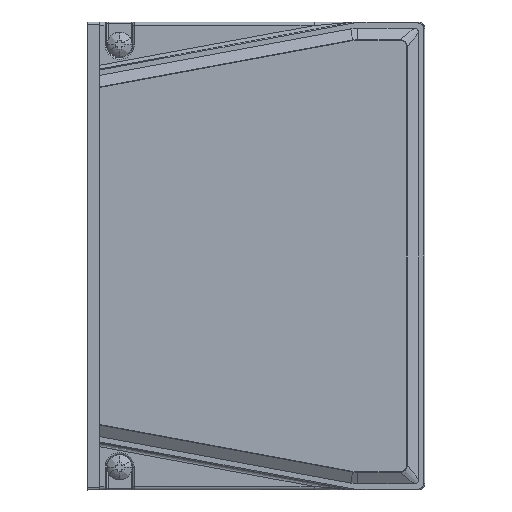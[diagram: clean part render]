
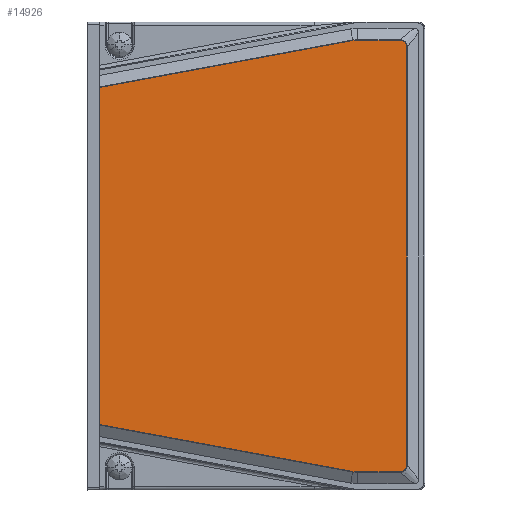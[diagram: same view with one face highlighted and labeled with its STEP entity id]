
A CAD part, left-side view. The second image highlights one B-rep face of the part: STEP entity #14926.
In plain terms, the highlighted planar face has unit normal (-1, 0, 0).
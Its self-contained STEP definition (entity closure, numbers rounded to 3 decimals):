
#14926=ADVANCED_FACE('',(#18165),#97324,.T.);
#18165=FACE_OUTER_BOUND('',#21525,.T.);
#21525=EDGE_LOOP('',(#39402,#39403,#39404,#39405,#39406,#39407,#39408,#39409,
#39410,#39411,#39412,#39413,#39414,#39415));
#39402=ORIENTED_EDGE('',*,*,#57978,.F.);
#39403=ORIENTED_EDGE('',*,*,#57979,.F.);
#39404=ORIENTED_EDGE('',*,*,#57980,.F.);
#39405=ORIENTED_EDGE('',*,*,#57986,.F.);
#39406=ORIENTED_EDGE('',*,*,#57989,.F.);
#39407=ORIENTED_EDGE('',*,*,#57981,.F.);
#39408=ORIENTED_EDGE('',*,*,#57982,.F.);
#39409=ORIENTED_EDGE('',*,*,#57987,.F.);
#39410=ORIENTED_EDGE('',*,*,#57990,.F.);
#39411=ORIENTED_EDGE('',*,*,#57983,.F.);
#39412=ORIENTED_EDGE('',*,*,#57984,.F.);
#39413=ORIENTED_EDGE('',*,*,#57985,.F.);
#39414=ORIENTED_EDGE('',*,*,#57988,.F.);
#39415=ORIENTED_EDGE('',*,*,#57977,.T.);
#57977=EDGE_CURVE('',#93692,#93691,#75265,.T.);
#57978=EDGE_CURVE('',#93693,#93691,#75266,.T.);
#57979=EDGE_CURVE('',#93694,#93693,#75267,.T.);
#57980=EDGE_CURVE('',#93695,#93694,#75268,.T.);
#57981=EDGE_CURVE('',#93696,#93701,#75269,.T.);
#57982=EDGE_CURVE('',#93697,#93696,#75270,.T.);
#57983=EDGE_CURVE('',#93698,#93703,#75271,.T.);
#57984=EDGE_CURVE('',#93699,#93698,#75272,.T.);
#57985=EDGE_CURVE('',#93700,#93699,#75273,.T.);
#57986=EDGE_CURVE('',#93702,#93695,#75274,.T.);
#57987=EDGE_CURVE('',#93704,#93697,#75275,.T.);
#57988=EDGE_CURVE('',#93692,#93700,#75276,.T.);
#57989=EDGE_CURVE('',#93701,#93702,#75277,.T.);
#57990=EDGE_CURVE('',#93703,#93704,#75278,.T.);
#75265=B_SPLINE_CURVE_WITH_KNOTS('',1,(#172296,#172297),.UNSPECIFIED.,.F.,
 .F.,(2,2),(-75.602,0.),.UNSPECIFIED.);
#75266=B_SPLINE_CURVE_WITH_KNOTS('',1,(#172298,#172299),.UNSPECIFIED.,.F.,
 .F.,(2,2),(0.,57.796),.UNSPECIFIED.);
#75267=B_SPLINE_CURVE_WITH_KNOTS('',5,(#172300,#172301,#172302,#172303,
#172304,#172305),.UNSPECIFIED.,.F.,.F.,(6,6),(-1.564,0.),
 .UNSPECIFIED.);
#75268=B_SPLINE_CURVE_WITH_KNOTS('',1,(#172306,#172307),.UNSPECIFIED.,.F.,
 .F.,(2,2),(0.,9.539),.UNSPECIFIED.);
#75269=B_SPLINE_CURVE_WITH_KNOTS('',5,(#172308,#172309,#172310,#172311,
#172312,#172313,#172314,#172315,#172316,#172317,#172318,#172319),
 .UNSPECIFIED.,.F.,.F.,(6,3,3,6),(-3.277,-2.663,-1.908,
-1.863),.UNSPECIFIED.);
#75270=B_SPLINE_CURVE_WITH_KNOTS('',1,(#172320,#172321),.UNSPECIFIED.,.F.,
 .F.,(2,2),(0.,93.935),.UNSPECIFIED.);
#75271=B_SPLINE_CURVE_WITH_KNOTS('',5,(#172322,#172323,#172324,#172325,
#172326,#172327,#172328,#172329,#172330,#172331,#172332,#172333),
 .UNSPECIFIED.,.F.,.F.,(6,3,3,6),(-3.277,-2.663,-1.908,
-1.863),.UNSPECIFIED.);
#75272=B_SPLINE_CURVE_WITH_KNOTS('',1,(#172334,#172335),.UNSPECIFIED.,.F.,
 .F.,(2,2),(0.,9.539),.UNSPECIFIED.);
#75273=B_SPLINE_CURVE_WITH_KNOTS('',5,(#172336,#172337,#172338,#172339,
#172340,#172341),.UNSPECIFIED.,.F.,.F.,(6,6),(-1.564,0.),
 .UNSPECIFIED.);
#75274=B_SPLINE_CURVE_WITH_KNOTS('',5,(#172342,#172343,#172344,#172345,
#172346,#172347,#172348,#172349,#172350),.UNSPECIFIED.,.F.,.F.,(6,3,6),
(-1.502,-0.78,0.),.UNSPECIFIED.);
#75275=B_SPLINE_CURVE_WITH_KNOTS('',5,(#172351,#172352,#172353,#172354,
#172355,#172356,#172357,#172358,#172359),.UNSPECIFIED.,.F.,.F.,(6,3,6),
(-1.502,-0.78,0.),.UNSPECIFIED.);
#75276=B_SPLINE_CURVE_WITH_KNOTS('',1,(#172360,#172361),.UNSPECIFIED.,.F.,
 .F.,(2,2),(-57.796,0.),.UNSPECIFIED.);
#75277=B_SPLINE_CURVE_WITH_KNOTS('',3,(#172362,#172363,#172364,#172365),
 .UNSPECIFIED.,.F.,.F.,(4,4),(3.371,3.66),
 .UNSPECIFIED.);
#75278=B_SPLINE_CURVE_WITH_KNOTS('',3,(#172366,#172367,#172368,#172369),
 .UNSPECIFIED.,.F.,.F.,(4,4),(3.371,3.66),
 .UNSPECIFIED.);
#93691=VERTEX_POINT('',#172282);
#93692=VERTEX_POINT('',#172283);
#93693=VERTEX_POINT('',#172284);
#93694=VERTEX_POINT('',#172285);
#93695=VERTEX_POINT('',#172286);
#93696=VERTEX_POINT('',#172287);
#93697=VERTEX_POINT('',#172288);
#93698=VERTEX_POINT('',#172289);
#93699=VERTEX_POINT('',#172290);
#93700=VERTEX_POINT('',#172291);
#93701=VERTEX_POINT('',#172292);
#93702=VERTEX_POINT('',#172293);
#93703=VERTEX_POINT('',#172294);
#93704=VERTEX_POINT('',#172295);
#97324=PLANE('',#100166);
#100166=AXIS2_PLACEMENT_3D('',#172281,#102991,$);
#102991=DIRECTION('',(-1.,0.,0.));
#172281=CARTESIAN_POINT('',(452.208,-152.175,111.233));
#172282=CARTESIAN_POINT('',(452.208,-76.287,131.614));
#172283=CARTESIAN_POINT('',(452.208,-76.287,207.215));
#172284=CARTESIAN_POINT('',(452.208,-133.115,121.081));
#172285=CARTESIAN_POINT('',(452.208,-134.215,120.98));
#172286=CARTESIAN_POINT('',(452.208,-143.755,120.98));
#172287=CARTESIAN_POINT('',(452.208,-145.222,122.447));
#172288=CARTESIAN_POINT('',(452.208,-145.222,216.382));
#172289=CARTESIAN_POINT('',(452.208,-143.755,217.849));
#172290=CARTESIAN_POINT('',(452.208,-134.215,217.849));
#172291=CARTESIAN_POINT('',(452.208,-133.115,217.748));
#172292=CARTESIAN_POINT('',(452.208,-144.902,121.548));
#172293=CARTESIAN_POINT('',(452.208,-144.706,121.343));
#172294=CARTESIAN_POINT('',(452.208,-144.653,217.529));
#172295=CARTESIAN_POINT('',(452.208,-144.859,217.333));
#172296=CARTESIAN_POINT('',(452.208,-76.287,207.215));
#172297=CARTESIAN_POINT('',(452.208,-76.287,131.614));
#172298=CARTESIAN_POINT('',(452.208,-133.115,121.081));
#172299=CARTESIAN_POINT('',(452.208,-76.287,131.614));
#172300=CARTESIAN_POINT('',(452.208,-134.215,120.98));
#172301=CARTESIAN_POINT('',(452.208,-133.994,120.98));
#172302=CARTESIAN_POINT('',(452.208,-133.773,120.99));
#172303=CARTESIAN_POINT('',(452.208,-133.552,121.011));
#172304=CARTESIAN_POINT('',(452.208,-133.333,121.041));
#172305=CARTESIAN_POINT('',(452.208,-133.115,121.081));
#172306=CARTESIAN_POINT('',(452.208,-143.755,120.98));
#172307=CARTESIAN_POINT('',(452.208,-134.215,120.98));
#172308=CARTESIAN_POINT('',(452.208,-145.222,122.447));
#172309=CARTESIAN_POINT('',(452.208,-145.221,122.379));
#172310=CARTESIAN_POINT('',(452.208,-145.217,122.31));
#172311=CARTESIAN_POINT('',(452.208,-145.208,122.237));
#172312=CARTESIAN_POINT('',(452.208,-145.174,122.061));
#172313=CARTESIAN_POINT('',(452.208,-145.105,121.874));
#172314=CARTESIAN_POINT('',(452.208,-145.055,121.77));
#172315=CARTESIAN_POINT('',(452.208,-144.991,121.664));
#172316=CARTESIAN_POINT('',(452.208,-144.915,121.565));
#172317=CARTESIAN_POINT('',(452.208,-144.91,121.559));
#172318=CARTESIAN_POINT('',(452.208,-144.906,121.554));
#172319=CARTESIAN_POINT('',(452.208,-144.902,121.548));
#172320=CARTESIAN_POINT('',(452.208,-145.222,216.382));
#172321=CARTESIAN_POINT('',(452.208,-145.222,122.447));
#172322=CARTESIAN_POINT('',(452.208,-143.755,217.849));
#172323=CARTESIAN_POINT('',(452.208,-143.823,217.849));
#172324=CARTESIAN_POINT('',(452.208,-143.891,217.844));
#172325=CARTESIAN_POINT('',(452.208,-143.965,217.836));
#172326=CARTESIAN_POINT('',(452.208,-144.14,217.802));
#172327=CARTESIAN_POINT('',(452.208,-144.328,217.733));
#172328=CARTESIAN_POINT('',(452.208,-144.432,217.683));
#172329=CARTESIAN_POINT('',(452.208,-144.538,217.618));
#172330=CARTESIAN_POINT('',(452.208,-144.637,217.542));
#172331=CARTESIAN_POINT('',(452.208,-144.642,217.538));
#172332=CARTESIAN_POINT('',(452.208,-144.648,217.534));
#172333=CARTESIAN_POINT('',(452.208,-144.653,217.529));
#172334=CARTESIAN_POINT('',(452.208,-134.215,217.849));
#172335=CARTESIAN_POINT('',(452.208,-143.755,217.849));
#172336=CARTESIAN_POINT('',(452.208,-133.115,217.748));
#172337=CARTESIAN_POINT('',(452.208,-133.333,217.788));
#172338=CARTESIAN_POINT('',(452.208,-133.552,217.819));
#172339=CARTESIAN_POINT('',(452.208,-133.773,217.839));
#172340=CARTESIAN_POINT('',(452.208,-133.994,217.849));
#172341=CARTESIAN_POINT('',(452.208,-134.215,217.849));
#172342=CARTESIAN_POINT('',(452.208,-144.706,121.343));
#172343=CARTESIAN_POINT('',(452.208,-144.62,121.269));
#172344=CARTESIAN_POINT('',(452.208,-144.528,121.203));
#172345=CARTESIAN_POINT('',(452.208,-144.431,121.147));
#172346=CARTESIAN_POINT('',(452.208,-144.226,121.052));
#172347=CARTESIAN_POINT('',(452.208,-144.026,121.002));
#172348=CARTESIAN_POINT('',(452.208,-143.929,120.987));
#172349=CARTESIAN_POINT('',(452.208,-143.841,120.98));
#172350=CARTESIAN_POINT('',(452.208,-143.755,120.98));
#172351=CARTESIAN_POINT('',(452.208,-144.859,217.333));
#172352=CARTESIAN_POINT('',(452.208,-144.933,217.248));
#172353=CARTESIAN_POINT('',(452.208,-144.999,217.155));
#172354=CARTESIAN_POINT('',(452.208,-145.055,217.059));
#172355=CARTESIAN_POINT('',(452.208,-145.15,216.853));
#172356=CARTESIAN_POINT('',(452.208,-145.2,216.653));
#172357=CARTESIAN_POINT('',(452.208,-145.214,216.556));
#172358=CARTESIAN_POINT('',(452.208,-145.221,216.468));
#172359=CARTESIAN_POINT('',(452.208,-145.222,216.382));
#172360=CARTESIAN_POINT('',(452.208,-76.287,207.215));
#172361=CARTESIAN_POINT('',(452.208,-133.115,217.748));
#172362=CARTESIAN_POINT('',(452.208,-144.902,121.548));
#172363=CARTESIAN_POINT('',(452.208,-144.843,121.474));
#172364=CARTESIAN_POINT('',(452.208,-144.777,121.405));
#172365=CARTESIAN_POINT('',(452.208,-144.706,121.343));
#172366=CARTESIAN_POINT('',(452.208,-144.653,217.529));
#172367=CARTESIAN_POINT('',(452.208,-144.728,217.471));
#172368=CARTESIAN_POINT('',(452.208,-144.797,217.405));
#172369=CARTESIAN_POINT('',(452.208,-144.859,217.333));
